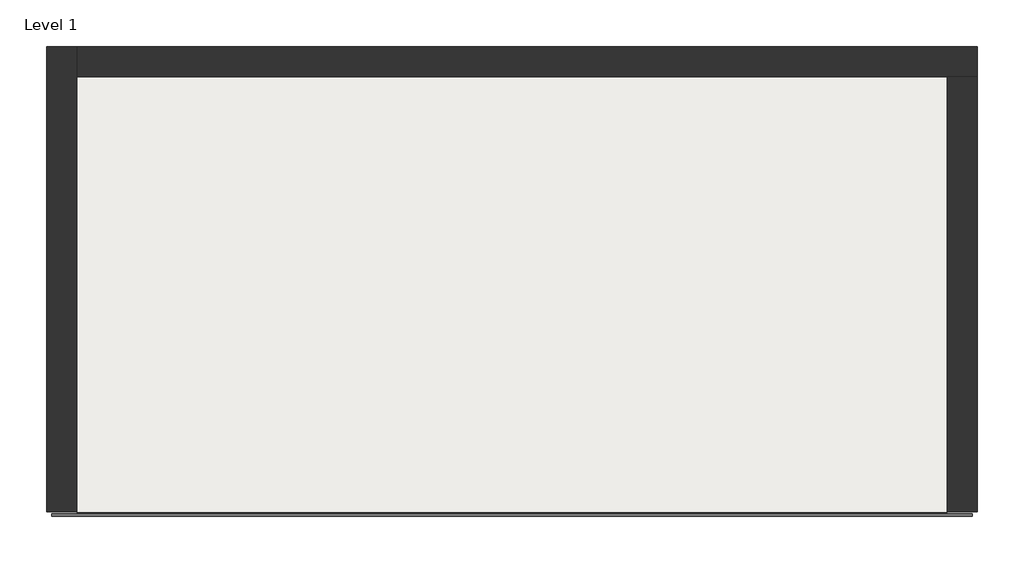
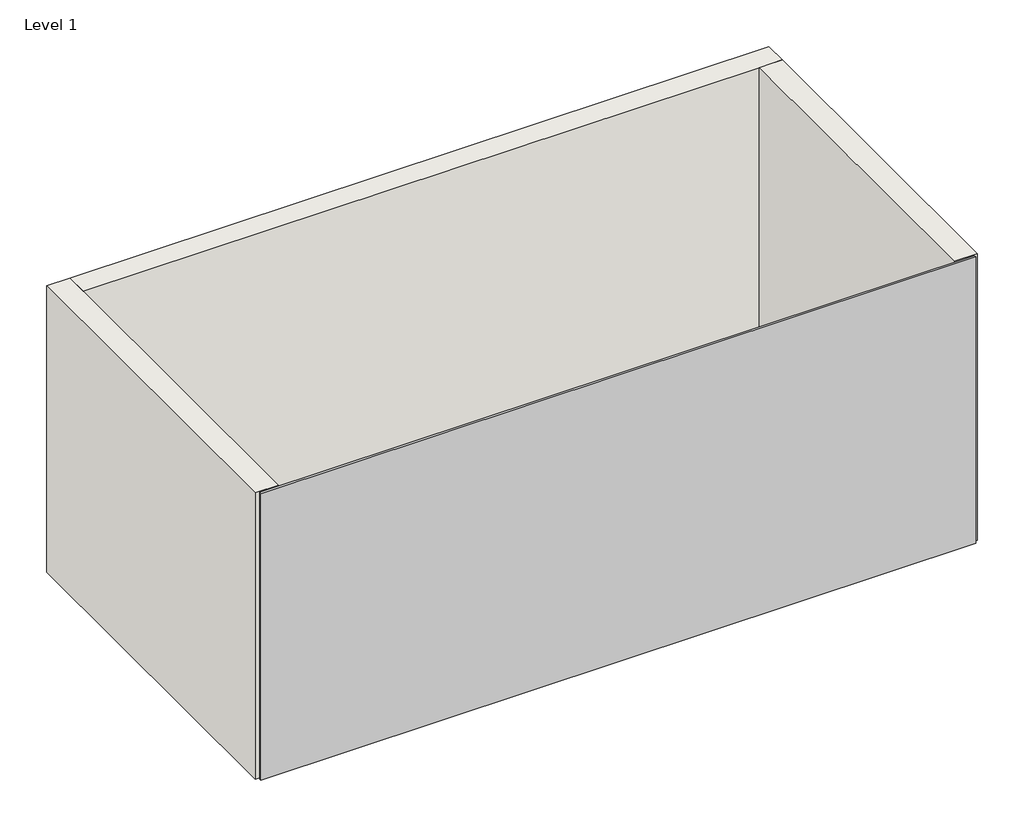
# One storey: 3 walls, 1 plate, 1 slab.
"""IFC4 building model written with IfcOpenShell, lengths in millimetres."""

from ifc_helpers import new_model, si_unit, origin, origin_with_axes, place, context, project, spatial, polyline, outline, extrude, faceted_brep, transform, mapped, element, save
from components import system_panel_glazed_8ba56651

model = new_model("IFC4")

# Units and contexts
model_context = context("Model", 3, world=origin())
ifc_project = project(units=[si_unit("LENGTHUNIT", "METRE", prefix="MILLI")], contexts=[model_context])

# Site, building, storey
site = spatial("IfcSite", under=ifc_project)
building = spatial("IfcBuilding", under=site)
storey = spatial("IfcBuildingStorey", under=building, Name="Level 1", Elevation=0.0)

# Plate
placement = place(None, origin())
system_panel_glazed_shape = system_panel_glazed_8ba56651(model_context)
element("IfcPlate", 1, ObjectType="System Panel : Glazed", at=placement, inside=storey, context=model_context, shape_type="MappedRepresentation", body=[
    mapped(system_panel_glazed_shape, transform((1567.8558373, 909.2024759, 0.0), x_axis=(-1.0, 0.0, 0.0), y_axis=(0.0, -1.0, 0.0), z_axis=(0.0, 0.0, 1.0))),
])

# Slab
element("IfcSlab", 2, ObjectType="Generic - 12\"", at=placement, inside=storey, context=model_context, shape_type="SweptSolid", body=[
    extrude(outline(polyline([(5987.4558373, 909.2024759), (-2851.7441627, 909.2024759), (-2851.7441627, 5328.8024759), (5987.4558373, 5328.8024759), (5987.4558373, 909.2024759)])), origin_with_axes(), (0.0, 0.0, 1.0), 304.8),
])

# Walls
element("IfcWall", 3, ObjectType="Generic - 12\"", at=placement, inside=storey, context=model_context, shape_type="Brep", body=[
    faceted_brep([(-2851.7441627, 909.2024759, 0.0), (-2851.7441627, 5328.8024759, 0.0), (-2851.7441627, 5633.6024759, 0.0), (-2851.7441627, 5633.6024759, 3962.4), (-2851.7441627, 5328.8024759, 3962.4), (-2851.7441627, 909.2024759, 3962.4), (-3156.5441627, 909.2024759, 0.0), (-3156.5441627, 909.2024759, 3962.4), (-3156.5441627, 5633.6024759, 3962.4), (-3156.5441627, 5633.6024759, 0.0)], [[[0, 1, 2, 3, 4, 5]], [[6, 7, 8, 9]], [[2, 1, 0, 6, 9]], [[5, 4, 3, 8, 7]], [[0, 5, 7, 6]], [[3, 2, 9, 8]]]),
])
element("IfcWall", 4, ObjectType="Generic - 12\"", at=placement, inside=storey, context=model_context, shape_type="Brep", body=[
    faceted_brep([(-2851.7441627, 5328.8024759, 0.0), (5987.4558373, 5328.8024759, 0.0), (6292.2558373, 5328.8024759, 0.0), (6292.2558373, 5328.8024759, 3962.4), (5987.4558373, 5328.8024759, 3962.4), (-2851.7441627, 5328.8024759, 3962.4), (-2851.7441627, 5633.6024759, 0.0), (-2851.7441627, 5633.6024759, 3962.4), (6292.2558373, 5633.6024759, 3962.4), (6292.2558373, 5633.6024759, 0.0)], [[[0, 1, 2, 3, 4, 5]], [[6, 7, 8, 9]], [[2, 1, 0, 6, 9]], [[5, 4, 3, 8, 7]], [[3, 2, 9, 8]], [[0, 5, 7, 6]]]),
])
element("IfcWall", 5, ObjectType="Generic - 12\"", at=placement, inside=storey, context=model_context, shape_type="SweptSolid", body=[
    extrude(outline(polyline([(5987.4558373, 909.2024759), (5987.4558373, 5328.8024759), (6292.2558373, 5328.8024759), (6292.2558373, 909.2024759), (5987.4558373, 909.2024759)])), origin_with_axes(), (0.0, 0.0, 1.0), 3962.4),
])

save(model, "model.ifc")
